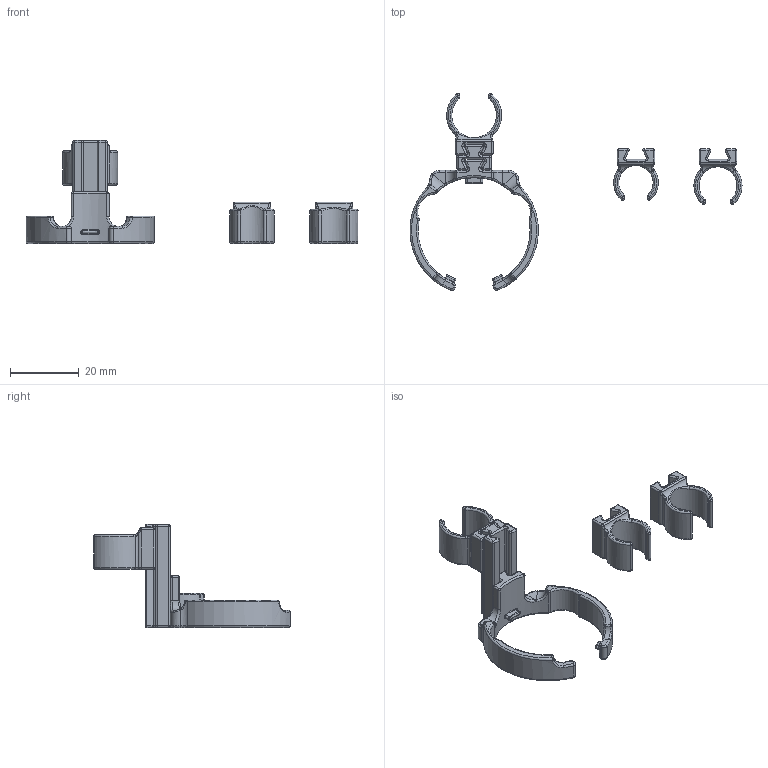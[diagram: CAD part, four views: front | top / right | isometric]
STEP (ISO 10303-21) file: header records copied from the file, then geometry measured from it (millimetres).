
FILE_DESCRIPTION(/* description */ (''),/* implementation_level */ '2;1');
FILE_NAME(/* name */ '/Users/jmac/Desktop/CAD Refresh/Evo Pen Holder/Evo Pen Holder.step',/* time_stamp */ '2022-09-22T14:06:29-06:00',/* author */ (''),/* organization */ (''),/* preprocessor_version */ 'ST-DEVELOPER v19',/* originating_system */ 'Autodesk Translation Framework v11.7.0.108',/* authorisation */ '');
FILE_SCHEMA (('AUTOMOTIVE_DESIGN { 1 0 10303 214 3 1 1 }'));
Length unit declared in the file: millimetre
Products named in the file (6): Evo Pen Holder; Rear Clip; Riser (1); 9mm Pen Holder; 13mm Pen Holder; 11mm Pen Holder
Assembly tree (5 placements, depth 2):
  Evo Pen Holder
    Rear Clip
    Riser (1)
    9mm Pen Holder
    13mm Pen Holder
    11mm Pen Holder
Bounding box: 96.67 x 57.28 x 30 mm (x, y, z)
Volume: 5882.3 mm3; surface area: 6761.5 mm2
Topology: 5 solids, 5 shells, 551 faces, 1188 edges, 636 vertices
Faces by surface type: cylinder 213, torus 101, bspline 87, plane 76, sphere 74
Entity records: 17287 total; most frequent: CARTESIAN_POINT 5324, DIRECTION 2696, ORIENTED_EDGE 2352, EDGE_CURVE 1176, AXIS2_PLACEMENT_3D 1160, CIRCLE 660, VERTEX_POINT 636, EDGE_LOOP 552
